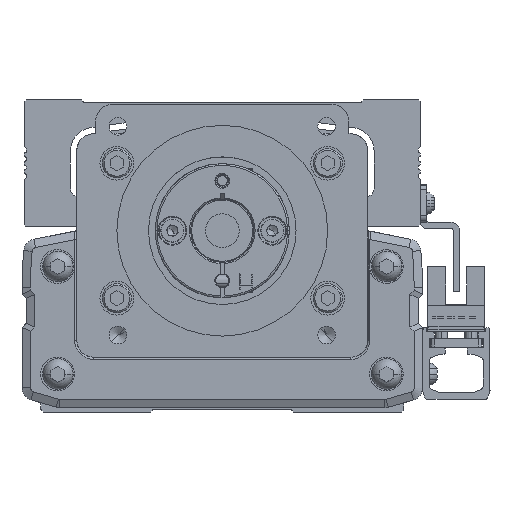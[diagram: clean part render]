
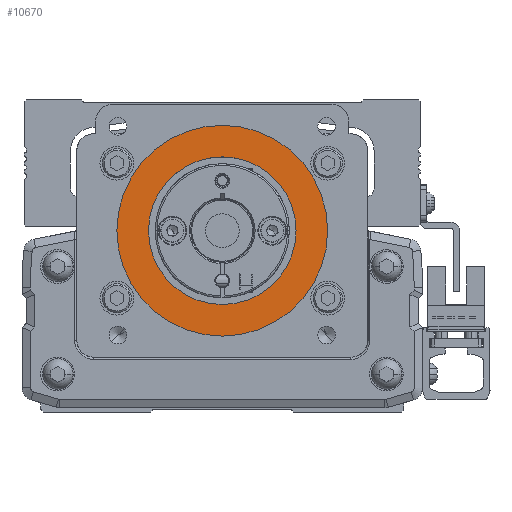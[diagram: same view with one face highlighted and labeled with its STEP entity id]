
A CAD part, front view. The second image highlights one B-rep face of the part: STEP entity #10670.
In plain terms, the highlighted planar face has unit normal (0, -1, 0).
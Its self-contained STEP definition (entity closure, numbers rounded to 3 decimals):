
#10670=ADVANCED_FACE('',(#21629,#21630),#21631,.T.);
#21629=FACE_BOUND('',#34741,.T.);
#21630=FACE_OUTER_BOUND('',#34742,.T.);
#21631=PLANE('',#34743);
#34741=EDGE_LOOP('',(#65588,#65589));
#34742=EDGE_LOOP('',(#65590,#65591));
#34743=AXIS2_PLACEMENT_3D('',#65592,#65593,#65594);
#65588=ORIENTED_EDGE('',*,*,#71252,.T.);
#65589=ORIENTED_EDGE('',*,*,#75794,.T.);
#65590=ORIENTED_EDGE('',*,*,#74775,.F.);
#65591=ORIENTED_EDGE('',*,*,#70412,.F.);
#65592=CARTESIAN_POINT('',(0.,-10.778,0.));
#65593=DIRECTION('',(0.,-1.0,0.));
#65594=DIRECTION('',(1.0,0.,0.));
#70412=EDGE_CURVE('',#85381,#85379,#85383,.T.);
#71252=EDGE_CURVE('',#86725,#86723,#86726,.T.);
#74775=EDGE_CURVE('',#85379,#85381,#91984,.T.);
#75794=EDGE_CURVE('',#86723,#86725,#93344,.T.);
#85379=VERTEX_POINT('',#106190);
#85381=VERTEX_POINT('',#106193);
#85383=CIRCLE('',#106196,25.0);
#86723=VERTEX_POINT('',#108055);
#86725=VERTEX_POINT('',#108058);
#86726=CIRCLE('',#108059,17.5);
#91984=CIRCLE('',#115892,25.0);
#93344=CIRCLE('',#117737,17.5);
#106190=CARTESIAN_POINT('',(25.,-10.778,0.));
#106193=CARTESIAN_POINT('',(-25.,-10.778,0.));
#106196=AXIS2_PLACEMENT_3D('',#127925,#127926,#127927);
#108055=CARTESIAN_POINT('',(-17.5,-10.778,0.));
#108058=CARTESIAN_POINT('',(17.5,-10.778,0.));
#108059=AXIS2_PLACEMENT_3D('',#129136,#129137,#129138);
#115892=AXIS2_PLACEMENT_3D('',#133625,#133626,#133627);
#117737=AXIS2_PLACEMENT_3D('',#134918,#134919,#134920);
#127925=CARTESIAN_POINT('',(0.,-10.778,0.));
#127926=DIRECTION('',(0.,1.0,0.));
#127927=DIRECTION('',(1.0,0.,0.));
#129136=CARTESIAN_POINT('',(0.,-10.778,0.));
#129137=DIRECTION('',(0.,1.0,0.));
#129138=DIRECTION('',(-1.0,0.,0.));
#133625=CARTESIAN_POINT('',(0.,-10.778,0.));
#133626=DIRECTION('',(0.,1.0,0.));
#133627=DIRECTION('',(1.0,0.,0.));
#134918=CARTESIAN_POINT('',(0.,-10.778,0.));
#134919=DIRECTION('',(0.,1.0,0.));
#134920=DIRECTION('',(-1.0,0.,0.));
